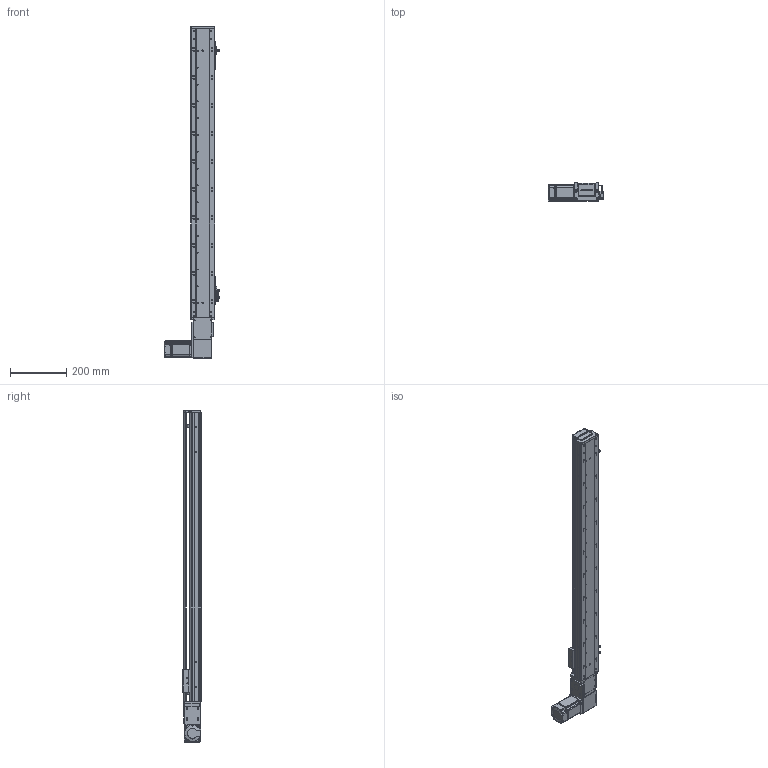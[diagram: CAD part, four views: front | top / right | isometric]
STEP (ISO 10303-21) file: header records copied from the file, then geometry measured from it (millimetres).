
FILE_DESCRIPTION (( 'STEP AP203' ), '1' );
FILE_NAME ('RY80-T-300-LK.SLDASM_850.step', '2021-03-01T01:58:42', ( '盈信电脑' ), ( '东莞市道滘镇水果街19号' ), 'SwSTEP 2.0', 'SolidWorks 2012', '' );
FILE_SCHEMA (( 'CONFIG_CONTROL_DESIGN' ));
Length unit declared in the file: millimetre
Products named in the file (19): RY80-T-300-LK.SLDASM_850; RY80-T萇儂假蚾啣; 侂狟200W萇儂; RY80-T-M4蹟翐; RY80-T肮祭謫俋欶; RY80-T粣創揤踡輸; RY80-T翋肮祭謫裔啣; 滅袉蝶18-10; 1; RY80-T肮祭湍揤輸1; RY80-T肮祭湍揤輸2; RY80-T-翋肮祭謫釱; 覜茼ん672; RY80俋离覜茼え; 672嫖萇羲壽假蚾釱; RY80-T綴裔啣; RY80-T-300-LK倰第奻裔啣_850; RY80-T肮祭謫臏賑輸; RY80-T-300-LK倰第菁釱_850
Assembly tree (24 placements, depth 3):
  RY80-T-300-LK.SLDASM_850
    RY80-T-300-LK倰第菁釱_850
    RY80-T肮祭謫臏賑輸
    RY80-T-300-LK倰第奻裔啣_850
    RY80-T綴裔啣
    672嫖萇羲壽假蚾釱  x2
    覜茼ん672  x3
    RY80俋离覜茼え
    RY80-T-翋肮祭謫釱
    RY80-T肮祭湍揤輸1
    RY80-T肮祭湍揤輸2
    RY80-T粣創揤踡輸
    RY80-T翋肮祭謫裔啣  x2
    滅袉蝶18-10  x2
    侂狟200W萇儂
      1
    RY80-T肮祭謫俋欶
    RY80-T萇儂假蚾啣
    RY80-T-M4蹟翐  x2
Bounding box: 198.7 x 65 x 1185 mm (x, y, z)
Volume: 1979877.5 mm3; surface area: 823031 mm2
Topology: 23 solids, 23 shells, 2562 faces, 7102 edges, 4615 vertices
Faces by surface type: plane 1341, cylinder 1013, cone 152, bspline 56
Entity records: 81845 total; most frequent: CARTESIAN_POINT 20715, ORIENTED_EDGE 12648, DIRECTION 11728, EDGE_CURVE 6324, VERTEX_POINT 4156, AXIS2_PLACEMENT_3D 3969, VECTOR 3790, LINE 3790
